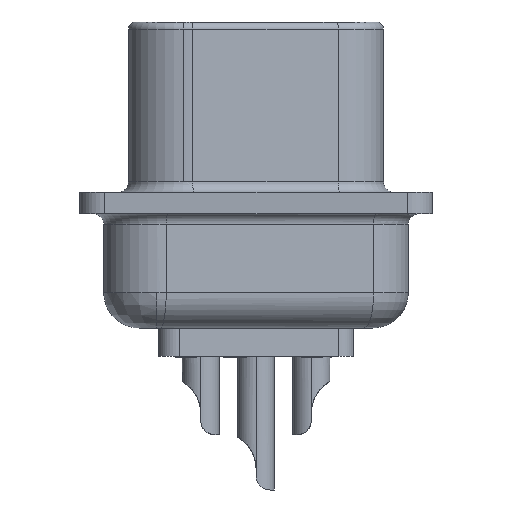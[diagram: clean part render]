
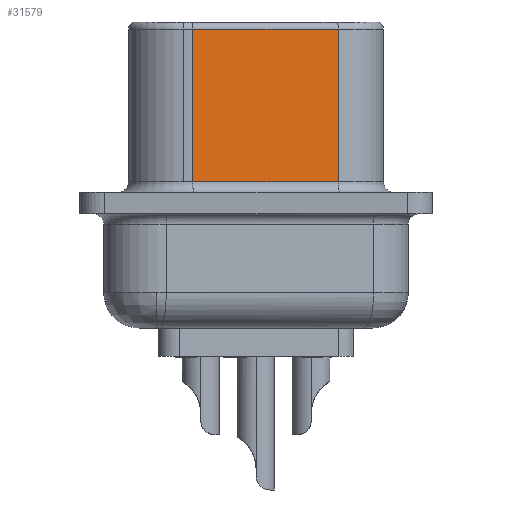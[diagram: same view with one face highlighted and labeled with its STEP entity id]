
A CAD part, left-side view. The second image highlights one B-rep face of the part: STEP entity #31579.
In plain terms, the highlighted planar face has unit normal (-0.985, -0.174, 0).
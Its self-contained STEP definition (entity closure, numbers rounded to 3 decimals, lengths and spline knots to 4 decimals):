
#3759 = VERTEX_POINT('',#3760);
#3760 = CARTESIAN_POINT('',(6.5717,8.5631,5.842));
#3775 = CYLINDRICAL_SURFACE('',#3776,1.9558);
#3776 = AXIS2_PLACEMENT_3D('',#3777,#3778,#3779);
#3777 = CARTESIAN_POINT('',(8.4978,8.9027,6.096));
#3778 = DIRECTION('',(-0.,-0.,-1.));
#3779 = DIRECTION('',(-1.,0.,0.));
#3802 = CYLINDRICAL_SURFACE('',#3803,0.254);
#3803 = AXIS2_PLACEMENT_3D('',#3804,#3805,#3806);
#3804 = CARTESIAN_POINT('',(7.74,3.4002,5.842));
#3805 = DIRECTION('',(0.174,-0.985,0.));
#3806 = DIRECTION('',(0.985,0.174,0.));
#3963 = VERTEX_POINT('',#3964);
#3964 = CARTESIAN_POINT('',(6.5717,8.5631,0.381));
#3991 = EDGE_CURVE('',#3759,#3963,#3992,.T.);
#3992 = SURFACE_CURVE('',#3993,(#3997,#4004),.PCURVE_S1.);
#3993 = LINE('',#3994,#3995);
#3994 = CARTESIAN_POINT('',(6.5717,8.5631,6.096));
#3995 = VECTOR('',#3996,1.);
#3996 = DIRECTION('',(-0.,-0.,-1.));
#3997 = PCURVE('',#3775,#3998);
#3998 = DEFINITIONAL_REPRESENTATION('',(#3999),#4003);
#3999 = LINE('',#4000,#4001);
#4000 = CARTESIAN_POINT('',(6.109,0.));
#4001 = VECTOR('',#4002,1.);
#4002 = DIRECTION('',(0.,1.));
#4003 = ( GEOMETRIC_REPRESENTATION_CONTEXT(2) 
PARAMETRIC_REPRESENTATION_CONTEXT() REPRESENTATION_CONTEXT('2D SPACE',''
  ) );
#4004 = PCURVE('',#4005,#4010);
#4005 = PLANE('',#4006);
#4006 = AXIS2_PLACEMENT_3D('',#4007,#4008,#4009);
#4007 = CARTESIAN_POINT('',(7.4898,3.3561,6.096));
#4008 = DIRECTION('',(0.985,0.174,-0.));
#4009 = DIRECTION('',(-0.174,0.985,0.));
#4010 = DEFINITIONAL_REPRESENTATION('',(#4011),#4015);
#4011 = LINE('',#4012,#4013);
#4012 = CARTESIAN_POINT('',(5.287,0.));
#4013 = VECTOR('',#4014,1.);
#4014 = DIRECTION('',(0.,-1.));
#4015 = ( GEOMETRIC_REPRESENTATION_CONTEXT(2) 
PARAMETRIC_REPRESENTATION_CONTEXT() REPRESENTATION_CONTEXT('2D SPACE',''
  ) );
#29395 = CYLINDRICAL_SURFACE('',#29396,0.381);
#29396 = AXIS2_PLACEMENT_3D('',#29397,#29398,#29399);
#29397 = CARTESIAN_POINT('',(7.1146,3.2899,0.381));
#29398 = DIRECTION('',(0.174,-0.985,0.));
#29399 = DIRECTION('',(0.985,0.174,0.));
#30370 = EDGE_CURVE('',#30371,#30373,#30375,.T.);
#30371 = VERTEX_POINT('',#30372);
#30372 = CARTESIAN_POINT('',(7.4898,3.3561,5.842));
#30373 = VERTEX_POINT('',#30374);
#30374 = CARTESIAN_POINT('',(7.4898,3.3561,0.381));
#30375 = SURFACE_CURVE('',#30376,(#30380,#30392),.PCURVE_S1.);
#30376 = LINE('',#30377,#30378);
#30377 = CARTESIAN_POINT('',(7.4898,3.3561,6.096));
#30378 = VECTOR('',#30379,1.);
#30379 = DIRECTION('',(-0.,-0.,-1.));
#30380 = PCURVE('',#30381,#30386);
#30381 = CYLINDRICAL_SURFACE('',#30382,1.9558);
#30382 = AXIS2_PLACEMENT_3D('',#30383,#30384,#30385);
#30383 = CARTESIAN_POINT('',(9.4159,3.6957,6.096));
#30384 = DIRECTION('',(-0.,-0.,-1.));
#30385 = DIRECTION('',(-1.,0.,0.));
#30386 = DEFINITIONAL_REPRESENTATION('',(#30387),#30391);
#30387 = LINE('',#30388,#30389);
#30388 = CARTESIAN_POINT('',(6.109,0.));
#30389 = VECTOR('',#30390,1.);
#30390 = DIRECTION('',(0.,1.));
#30391 = ( GEOMETRIC_REPRESENTATION_CONTEXT(2) 
PARAMETRIC_REPRESENTATION_CONTEXT() REPRESENTATION_CONTEXT('2D SPACE',''
  ) );
#30392 = PCURVE('',#4005,#30393);
#30393 = DEFINITIONAL_REPRESENTATION('',(#30394),#30398);
#30394 = LINE('',#30395,#30396);
#30395 = CARTESIAN_POINT('',(0.,0.));
#30396 = VECTOR('',#30397,1.);
#30397 = DIRECTION('',(0.,-1.));
#30398 = ( GEOMETRIC_REPRESENTATION_CONTEXT(2) 
PARAMETRIC_REPRESENTATION_CONTEXT() REPRESENTATION_CONTEXT('2D SPACE',''
  ) );
#31579 = ADVANCED_FACE('',(#31580),#4005,.F.);
#31580 = FACE_BOUND('',#31581,.T.);
#31581 = EDGE_LOOP('',(#31582,#31583,#31604,#31605));
#31582 = ORIENTED_EDGE('',*,*,#3991,.T.);
#31583 = ORIENTED_EDGE('',*,*,#31584,.T.);
#31584 = EDGE_CURVE('',#3963,#30373,#31585,.T.);
#31585 = SURFACE_CURVE('',#31586,(#31590,#31597),.PCURVE_S1.);
#31586 = LINE('',#31587,#31588);
#31587 = CARTESIAN_POINT('',(7.4898,3.3561,0.381));
#31588 = VECTOR('',#31589,1.);
#31589 = DIRECTION('',(0.174,-0.985,0.));
#31590 = PCURVE('',#4005,#31591);
#31591 = DEFINITIONAL_REPRESENTATION('',(#31592),#31596);
#31592 = LINE('',#31593,#31594);
#31593 = CARTESIAN_POINT('',(0.,-5.715));
#31594 = VECTOR('',#31595,1.);
#31595 = DIRECTION('',(-1.,0.));
#31596 = ( GEOMETRIC_REPRESENTATION_CONTEXT(2) 
PARAMETRIC_REPRESENTATION_CONTEXT() REPRESENTATION_CONTEXT('2D SPACE',''
  ) );
#31597 = PCURVE('',#29395,#31598);
#31598 = DEFINITIONAL_REPRESENTATION('',(#31599),#31603);
#31599 = LINE('',#31600,#31601);
#31600 = CARTESIAN_POINT('',(6.283,0.));
#31601 = VECTOR('',#31602,1.);
#31602 = DIRECTION('',(0.,1.));
#31603 = ( GEOMETRIC_REPRESENTATION_CONTEXT(2) 
PARAMETRIC_REPRESENTATION_CONTEXT() REPRESENTATION_CONTEXT('2D SPACE',''
  ) );
#31604 = ORIENTED_EDGE('',*,*,#30370,.F.);
#31605 = ORIENTED_EDGE('',*,*,#31606,.T.);
#31606 = EDGE_CURVE('',#30371,#3759,#31607,.T.);
#31607 = SURFACE_CURVE('',#31608,(#31612,#31619),.PCURVE_S1.);
#31608 = LINE('',#31609,#31610);
#31609 = CARTESIAN_POINT('',(7.4898,3.3561,5.842));
#31610 = VECTOR('',#31611,1.);
#31611 = DIRECTION('',(-0.174,0.985,-0.));
#31612 = PCURVE('',#4005,#31613);
#31613 = DEFINITIONAL_REPRESENTATION('',(#31614),#31618);
#31614 = LINE('',#31615,#31616);
#31615 = CARTESIAN_POINT('',(0.,-0.254));
#31616 = VECTOR('',#31617,1.);
#31617 = DIRECTION('',(1.,0.));
#31618 = ( GEOMETRIC_REPRESENTATION_CONTEXT(2) 
PARAMETRIC_REPRESENTATION_CONTEXT() REPRESENTATION_CONTEXT('2D SPACE',''
  ) );
#31619 = PCURVE('',#3802,#31620);
#31620 = DEFINITIONAL_REPRESENTATION('',(#31621),#31625);
#31621 = LINE('',#31622,#31623);
#31622 = CARTESIAN_POINT('',(3.142,0.));
#31623 = VECTOR('',#31624,1.);
#31624 = DIRECTION('',(0.,-1.));
#31625 = ( GEOMETRIC_REPRESENTATION_CONTEXT(2) 
PARAMETRIC_REPRESENTATION_CONTEXT() REPRESENTATION_CONTEXT('2D SPACE',''
  ) );
